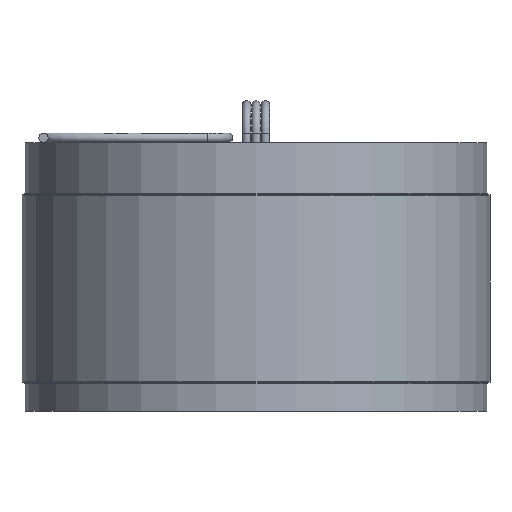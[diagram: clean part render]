
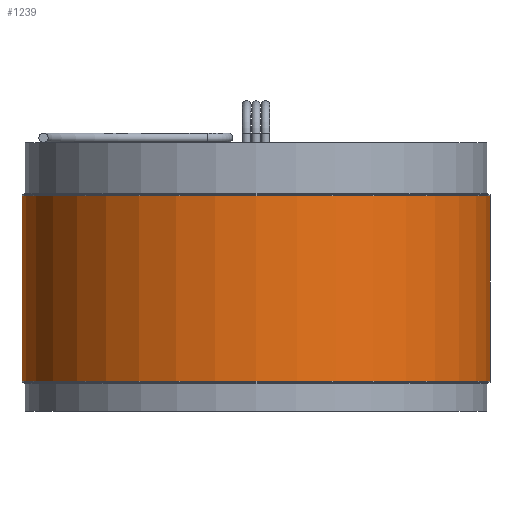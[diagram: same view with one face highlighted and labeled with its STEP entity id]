
A CAD part, front view. The second image highlights one B-rep face of the part: STEP entity #1239.
In plain terms, the highlighted cylindrical face has radius 63.5 mm (diameter 127 mm), a full revolution.
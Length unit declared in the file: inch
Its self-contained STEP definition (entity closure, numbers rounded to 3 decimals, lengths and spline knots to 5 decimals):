
#27 = EDGE_LOOP ( 'NONE', ( #432 ) ) ;
#104 = ORIENTED_EDGE ( 'NONE', *, *, #388, .F. ) ;
#111 = VERTEX_POINT ( 'NONE', #862 ) ;
#118 = AXIS2_PLACEMENT_3D ( 'NONE', #347, #372, #1270 ) ;
#173 = CARTESIAN_POINT ( 'NONE',  ( 2.5, 0., -0.99213 ) ) ;
#203 = EDGE_CURVE ( 'NONE', #1002, #1002, #697, .T. ) ;
#217 = CIRCLE ( 'NONE', #1307, 2.5 ) ;
#299 = CARTESIAN_POINT ( 'NONE',  ( 0., 0., -0.99213 ) ) ;
#322 = DIRECTION ( 'NONE',  ( 1., 0., 0. ) ) ;
#347 = CARTESIAN_POINT ( 'NONE',  ( 0., 0., -1.01 ) ) ;
#372 = DIRECTION ( 'NONE',  ( 0., 0., 1. ) ) ;
#379 = FACE_OUTER_BOUND ( 'NONE', #1232, .T. ) ;
#388 = EDGE_CURVE ( 'NONE', #111, #111, #217, .T. ) ;
#432 = ORIENTED_EDGE ( 'NONE', *, *, #203, .T. ) ;
#619 = CYLINDRICAL_SURFACE ( 'NONE', #118, 2.5 ) ;
#630 = DIRECTION ( 'NONE',  ( 1., 0., 0. ) ) ;
#697 = CIRCLE ( 'NONE', #1125, 2.5 ) ;
#862 = CARTESIAN_POINT ( 'NONE',  ( 2.5, 0., 0.99213 ) ) ;
#864 = DIRECTION ( 'NONE',  ( 0., 0., 1. ) ) ;
#993 = DIRECTION ( 'NONE',  ( 0., 0., 1. ) ) ;
#1002 = VERTEX_POINT ( 'NONE', #173 ) ;
#1013 = CARTESIAN_POINT ( 'NONE',  ( 0., 0., 0.99213 ) ) ;
#1125 = AXIS2_PLACEMENT_3D ( 'NONE', #299, #864, #630 ) ;
#1210 = FACE_OUTER_BOUND ( 'NONE', #27, .T. ) ;
#1232 = EDGE_LOOP ( 'NONE', ( #104 ) ) ;
#1239 = ADVANCED_FACE ( 'NONE', ( #379, #1210 ), #619, .T. ) ;
#1270 = DIRECTION ( 'NONE',  ( 1., 0., 0. ) ) ;
#1307 = AXIS2_PLACEMENT_3D ( 'NONE', #1013, #993, #322 ) ;
